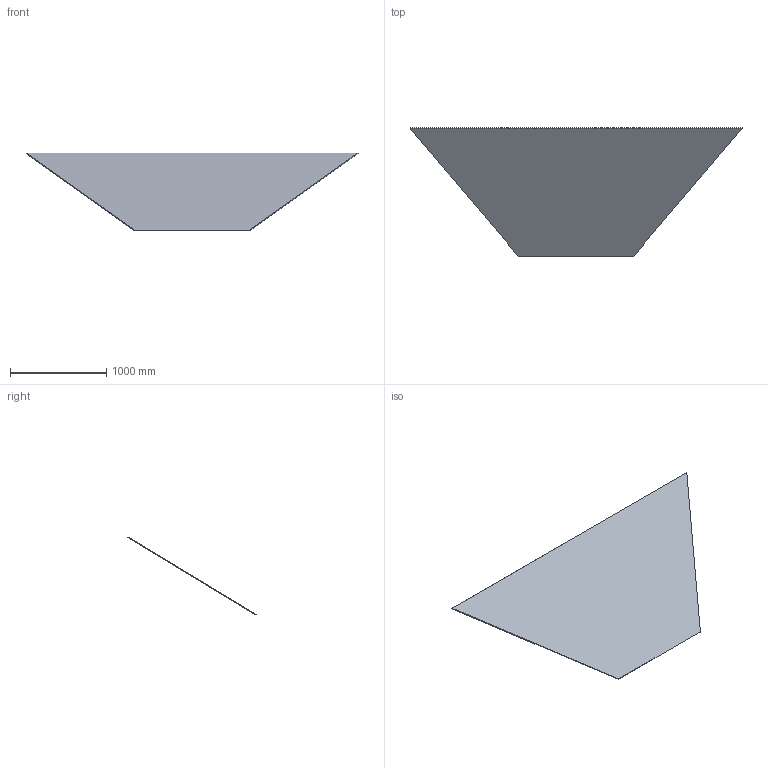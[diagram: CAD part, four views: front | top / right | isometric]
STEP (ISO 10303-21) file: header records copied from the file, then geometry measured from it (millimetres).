
FILE_DESCRIPTION(('Open CASCADE Model'),'2;1');
FILE_NAME('Open CASCADE Shape Model','2026-09-19T12:55:11',('Author'),( 'Open CASCADE'),'Open CASCADE STEP processor 7.9','Open CASCADE 7.9' ,'Unknown');
FILE_SCHEMA(('AUTOMOTIVE_DESIGN { 1 0 10303 214 1 1 1 1 }'));
Length unit declared in the file: millimetre
Products named in the file (1): Open CASCADE STEP translator 7.9 14
Bounding box: 3450 x 1330.17 x 808.56 mm (x, y, z)
Volume: 35985900.6 mm3; surface area: 7281948.9 mm2
Topology: 1 solids, 1 shells, 6 faces, 12 edges, 8 vertices
Faces by surface type: plane 6
Entity records: 322 total; most frequent: CARTESIAN_POINT 51, DIRECTION 50, LINE 36, VECTOR 36, ORIENTED_EDGE 24, PCURVE 24, DEFINITIONAL_REPRESENTATION 24, EDGE_CURVE 12
